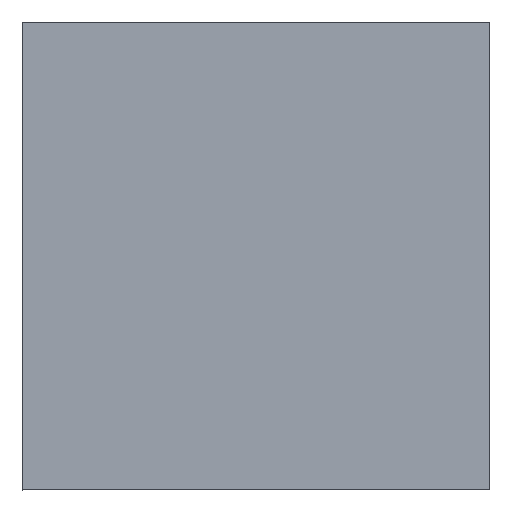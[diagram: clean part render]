
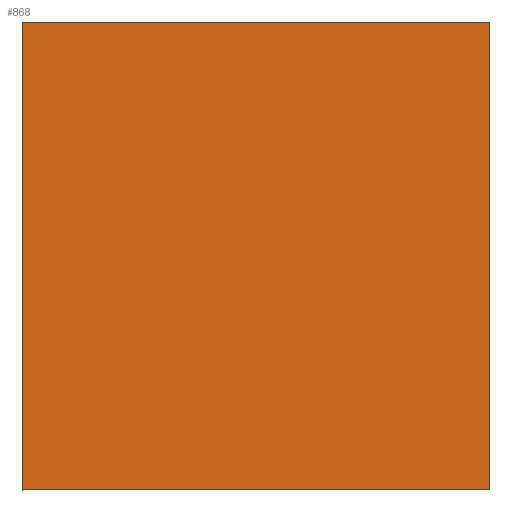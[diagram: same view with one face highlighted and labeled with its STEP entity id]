
A CAD part, top view. The second image highlights one B-rep face of the part: STEP entity #868.
In plain terms, the highlighted planar face has unit normal (0, 0, 1).
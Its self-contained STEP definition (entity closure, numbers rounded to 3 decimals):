
#100=FACE_OUTER_BOUND('',#157,.T.);
#157=EDGE_LOOP('',(#782,#783,#784,#785));
#250=LINE('',#2090,#351);
#253=LINE('',#2096,#354);
#256=LINE('',#2102,#357);
#259=LINE('',#2106,#360);
#351=VECTOR('',#1106,10.);
#354=VECTOR('',#1111,10.);
#357=VECTOR('',#1116,10.);
#360=VECTOR('',#1121,10.);
#433=VERTEX_POINT('',#2087);
#434=VERTEX_POINT('',#2089);
#436=VERTEX_POINT('',#2095);
#438=VERTEX_POINT('',#2101);
#546=EDGE_CURVE('',#434,#433,#250,.T.);
#549=EDGE_CURVE('',#436,#434,#253,.T.);
#552=EDGE_CURVE('',#438,#436,#256,.T.);
#555=EDGE_CURVE('',#433,#438,#259,.T.);
#782=ORIENTED_EDGE('',*,*,#555,.T.);
#783=ORIENTED_EDGE('',*,*,#552,.T.);
#784=ORIENTED_EDGE('',*,*,#549,.T.);
#785=ORIENTED_EDGE('',*,*,#546,.T.);
#822=PLANE('',#929);
#868=ADVANCED_FACE('',(#100),#822,.T.);
#929=AXIS2_PLACEMENT_3D('',#2107,#1122,#1123);
#1106=DIRECTION('',(0.,-1.,0.));
#1111=DIRECTION('',(-1.,0.,0.));
#1116=DIRECTION('',(0.,1.,0.));
#1121=DIRECTION('',(1.,0.,0.));
#1122=DIRECTION('center_axis',(0.,0.,1.));
#1123=DIRECTION('ref_axis',(0.,-1.,0.));
#2087=CARTESIAN_POINT('',(3479.488,993.972,68.4));
#2089=CARTESIAN_POINT('',(3479.488,1590.972,68.4));
#2090=CARTESIAN_POINT('',(3479.488,993.972,68.4));
#2095=CARTESIAN_POINT('',(4076.488,1590.972,68.4));
#2096=CARTESIAN_POINT('',(3479.488,1590.972,68.4));
#2101=CARTESIAN_POINT('',(4076.488,993.972,68.4));
#2102=CARTESIAN_POINT('',(4076.488,1590.972,68.4));
#2106=CARTESIAN_POINT('',(4076.488,993.972,68.4));
#2107=CARTESIAN_POINT('Origin',(3777.988,1292.472,68.4));
